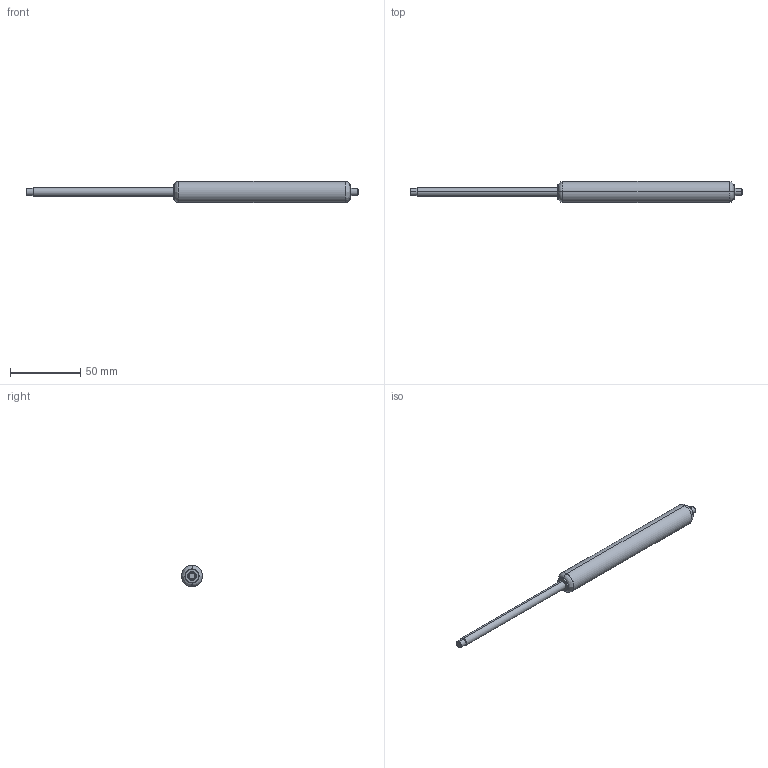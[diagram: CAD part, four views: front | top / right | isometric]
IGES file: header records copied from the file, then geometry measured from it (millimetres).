
Start section: SolidWorks IGES file using analytic representation for surfaces
Bounding box: 237 x 15 x 15 mm (x, y, z)
Surface area: 8215.5 mm2 (no closed solid volume)
Topology: 0 solids, 0 shells, 25 faces, 336 edges, 336 vertices
Faces by surface type: revolution 16, bspline 9
